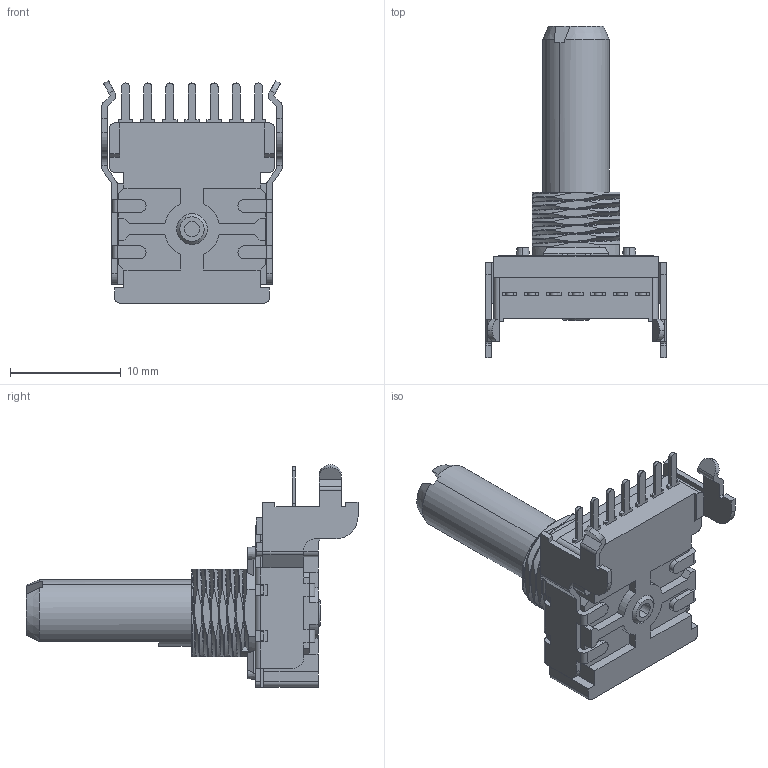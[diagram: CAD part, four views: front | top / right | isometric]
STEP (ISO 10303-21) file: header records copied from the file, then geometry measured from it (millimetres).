
FILE_DESCRIPTION (( 'STEP AP203' ), '1' );
FILE_NAME ('P140KV1-F20.STEP', '2026-09-14T18:58:33', ( '' ), ( '' ), 'SwSTEP 2.0', 'SolidWorks 2026', '' );
FILE_SCHEMA (( 'CONFIG_CONTROL_DESIGN' ));
Length unit declared in the file: millimetre
Products named in the file (8): spring_plate; P140KV1-F20; 1-F20; bushing; Housing; KV_housing; KV1 bracket; H-terminal
Assembly tree (13 placements, depth 3):
  P140KV1-F20
    KV_housing
      Housing
      H-terminal  x7
    1-F20
    spring_plate
    bushing
    KV1 bracket
Bounding box: 16.3 x 30 x 20.1 mm (x, y, z)
Volume: 1647.2 mm3; surface area: 3119.5 mm2
Topology: 12 solids, 12 shells, 701 faces, 1945 edges, 1268 vertices
Faces by surface type: plane 442, cylinder 179, bspline 61, cone 17, torus 2
Entity records: 34945 total; most frequent: CARTESIAN_POINT 17982, ORIENTED_EDGE 3602, DIRECTION 3004, EDGE_CURVE 1801, VERTEX_POINT 1172, LINE 1160, VECTOR 1160, AXIS2_PLACEMENT_3D 922
